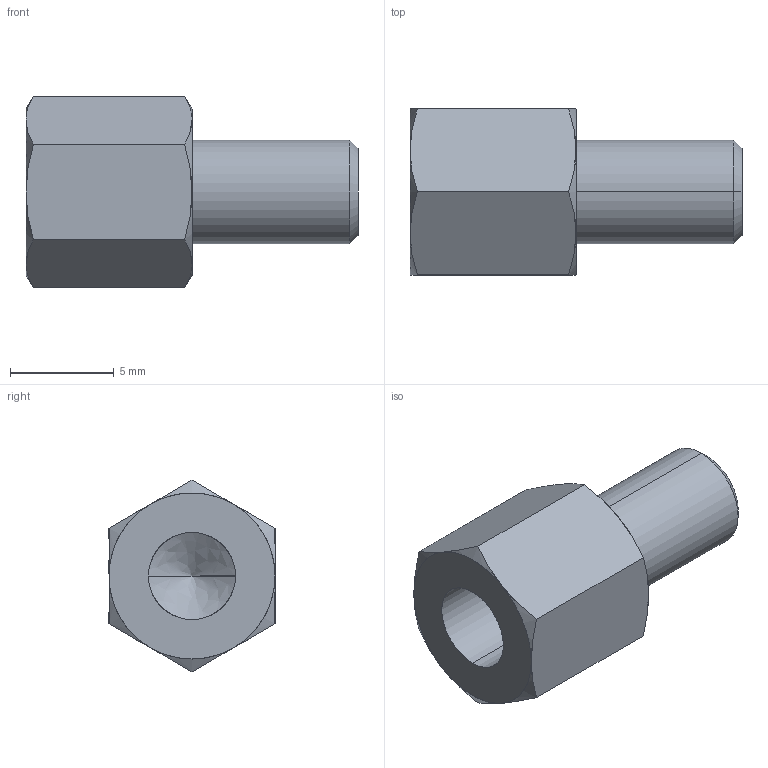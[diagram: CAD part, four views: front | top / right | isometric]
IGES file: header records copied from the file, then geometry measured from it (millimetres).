
Start section: SolidWorks IGES file using analytic representation for surfaces
Global section: file name: C:\Users\render1\Desktop\P0185_IGES\P0185.05-08.igs; native system: SolidWorks 2009; preprocessor: SolidWorks 2009; author: render1; date: 130627.112347; units: millimetre
Bounding box: 16 x 8 x 9.24 mm (x, y, z)
Surface area: 517.2 mm2 (no closed solid volume)
Topology: 0 solids, 0 shells, 29 faces, 324 edges, 322 vertices
Faces by surface type: revolution 20, bspline 9
